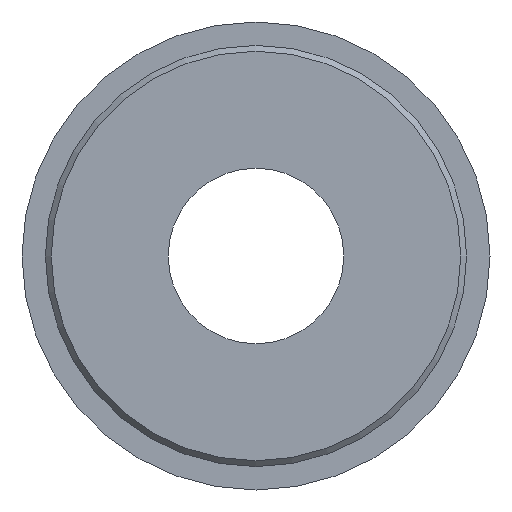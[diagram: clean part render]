
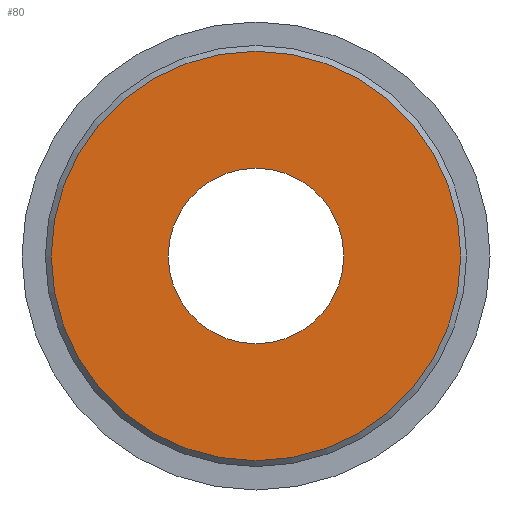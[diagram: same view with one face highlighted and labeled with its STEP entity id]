
A CAD part, front view. The second image highlights one B-rep face of the part: STEP entity #80.
In plain terms, the highlighted planar face has unit normal (0, -1, 0).
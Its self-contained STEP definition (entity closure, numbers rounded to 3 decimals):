
#80 = ADVANCED_FACE( '', ( #102, #103 ), #104, .T. );
#102 = FACE_OUTER_BOUND( '', #135, .T. );
#103 = FACE_BOUND( '', #136, .T. );
#104 = PLANE( '', #137 );
#135 = EDGE_LOOP( '', ( #178 ) );
#136 = EDGE_LOOP( '', ( #179 ) );
#137 = AXIS2_PLACEMENT_3D( '', #180, #181, #182 );
#178 = ORIENTED_EDGE( '', *, *, #214, .T. );
#179 = ORIENTED_EDGE( '', *, *, #213, .F. );
#180 = CARTESIAN_POINT( '', ( 6., 0., 0. ) );
#181 = DIRECTION( '', ( 0., -1., 0. ) );
#182 = DIRECTION( '', ( 0., 0., -1. ) );
#213 = EDGE_CURVE( '', #229, #229, #230, .T. );
#214 = EDGE_CURVE( '', #231, #231, #232, .T. );
#229 = VERTEX_POINT( '', #251 );
#230 = CIRCLE( '', #252, 6. );
#231 = VERTEX_POINT( '', #253 );
#232 = CIRCLE( '', #254, 14. );
#251 = CARTESIAN_POINT( '', ( 0., 0., -6. ) );
#252 = AXIS2_PLACEMENT_3D( '', #278, #279, #280 );
#253 = CARTESIAN_POINT( '', ( 0., 0., -14. ) );
#254 = AXIS2_PLACEMENT_3D( '', #281, #282, #283 );
#278 = CARTESIAN_POINT( '', ( 0., 0., 0. ) );
#279 = DIRECTION( '', ( 0., -1., 0. ) );
#280 = DIRECTION( '', ( 0., 0., -1. ) );
#281 = CARTESIAN_POINT( '', ( 0., 0., 0. ) );
#282 = DIRECTION( '', ( 0., -1., 0. ) );
#283 = DIRECTION( '', ( 0., 0., -1. ) );
